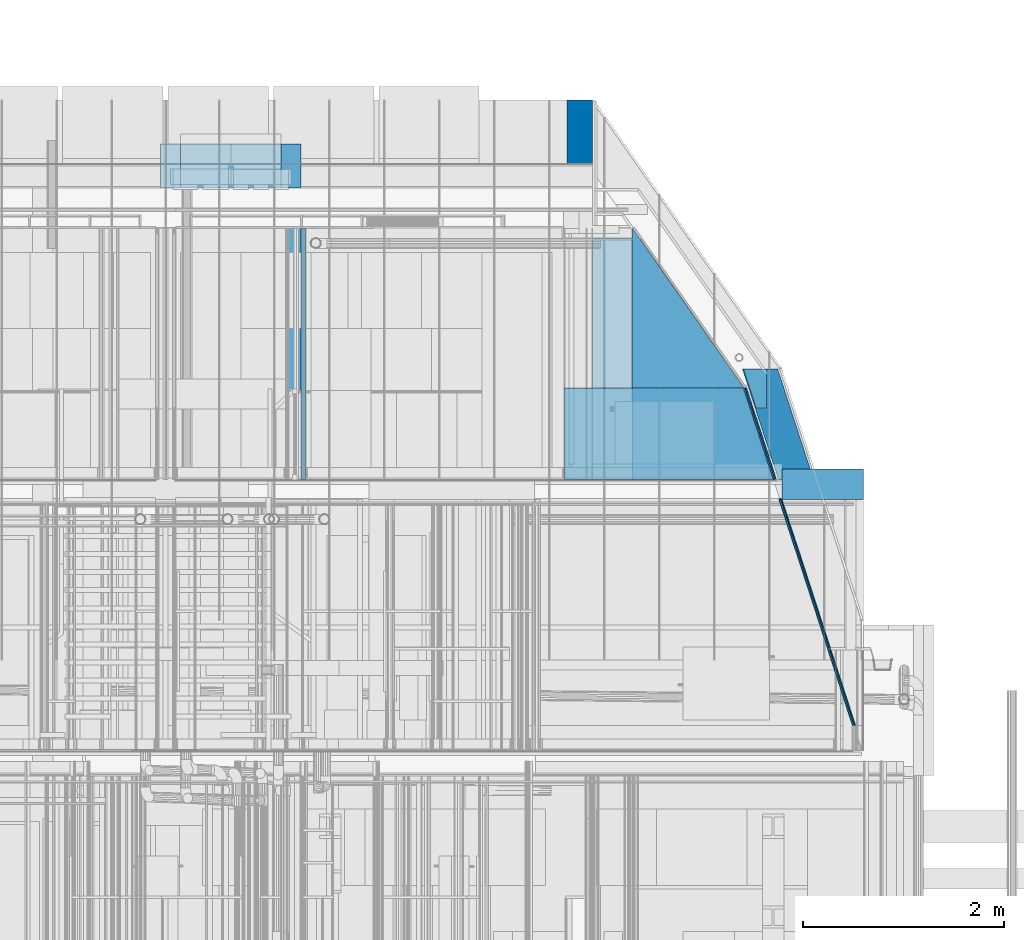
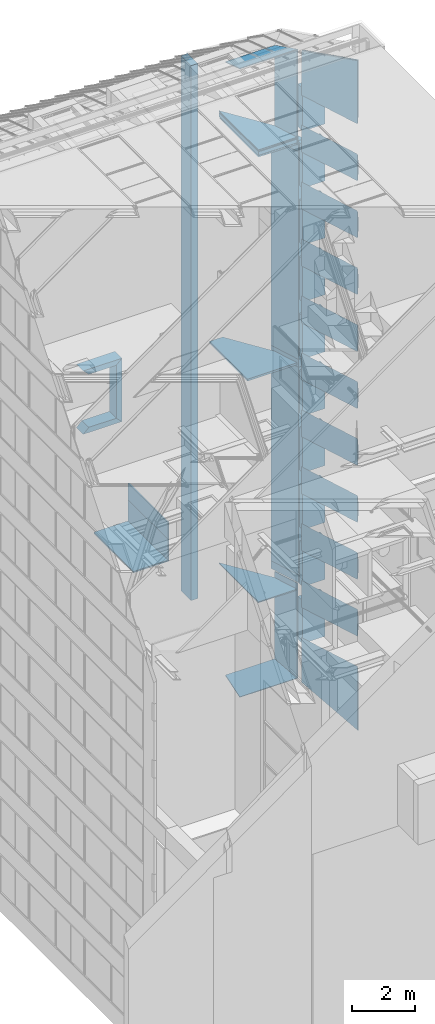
# One storey, part 27 of 583: 59 walls.
"""IFC2X3 building model written with IfcOpenShell, lengths in metres."""

import ifcopenshell
import ifcopenshell.guid

model = None  # the IFC model being written
_history = None  # IfcOwnerHistory: only IFC2X3 demands one
_inside = {}  # id of a spatial element -> (the spatial element, [elements in it])
_under = {}  # id of a project, library or spatial element -> (it, [spatial elements below it])
_declared = {}  # id of a project -> (the project, [libraries it declares])
_typed = {}  # id of a type object -> (the type object, [elements of that type])
_made_of = {}  # id of a material, layer set ... -> (it, [elements and type objects made of it])


def new_model(schema):
    """Start an empty IFC model of exactly this schema.

    Asked for "IFC4X3", IfcOpenShell would pick the latest addendum, in which some entities
    have other attributes; the version numbers below select the first issue.
    IFC2X3 requires an IfcOwnerHistory on every rooted entity: one is made here for all.
    """
    global model, _history
    if schema == "IFC4X3":
        model = ifcopenshell.file(schema_version=(4, 3, 0, 0))
    else:
        model = ifcopenshell.file(schema=schema)
    _inside.clear()
    _under.clear()
    _declared.clear()
    _typed.clear()
    _made_of.clear()
    _history = None
    if model.schema == "IFC2X3":
        org = make("IfcOrganization", Name="unknown")
        user = make(
            "IfcPersonAndOrganization",
            ThePerson=make("IfcPerson", FamilyName="unknown"),
            TheOrganization=org,
        )
        app = make(
            "IfcApplication",
            ApplicationDeveloper=org,
            Version="unknown",
            ApplicationFullName="unknown",
            ApplicationIdentifier="unknown",
        )
        _history = make(
            "IfcOwnerHistory",
            OwningUser=user,
            OwningApplication=app,
            ChangeAction="ADDED",
            CreationDate=0,
        )
    return model


def make(cls, **values):
    """One entity of the class cls with the attributes given. An attribute that is None is left unset."""
    return model.create_entity(
        cls, **{name: value for name, value in values.items() if value is not None}
    )


def entity(cls, *values):
    """Any entity or typed value of the class cls, its attributes in the order of the schema. None: left unset."""
    e = model.create_entity(cls)
    for i, value in enumerate(values):
        if value is not None:
            e[i] = value
    return e


def rooted(cls, **values):
    """An entity with a GlobalId (a new one), such as an element, a storey or a relation."""
    return make(cls, GlobalId=ifcopenshell.guid.new(), OwnerHistory=_history, **values)


def si_unit(unit_type, name, prefix=None):
    """IfcSIUnit, for example si_unit("LENGTHUNIT", "METRE", prefix="MILLI")."""
    return make("IfcSIUnit", UnitType=unit_type, Prefix=prefix, Name=name)


def converted_unit(unit_type, name, factor, base, dimensions=None, offset=None):
    """IfcConversionBasedUnit, such as the inch: factor (a typed value) times the base unit."""
    return make(
        "IfcConversionBasedUnit"
        if offset is None
        else "IfcConversionBasedUnitWithOffset",
        ConversionOffset=offset,
        Dimensions=None
        if dimensions is None
        else entity("IfcDimensionalExponents", *dimensions),
        UnitType=unit_type,
        Name=name,
        ConversionFactor=make(
            "IfcMeasureWithUnit", ValueComponent=factor, UnitComponent=base
        ),
    )


def derived_unit(unit_type, elements):
    """IfcDerivedUnit: a product of units, each with its exponent."""
    return make(
        "IfcDerivedUnit",
        Elements=[
            make("IfcDerivedUnitElement", Unit=unit, Exponent=power)
            for unit, power in elements
        ],
        UnitType=unit_type,
    )


def money_unit(currency):
    """IfcMonetaryUnit."""
    return make("IfcMonetaryUnit", Currency=currency)


def assignment(units):
    """IfcUnitAssignment: the units of a project."""
    return None if units is None else make("IfcUnitAssignment", Units=units)


def point(xyz):
    """IfcCartesianPoint."""
    return None if xyz is None else make("IfcCartesianPoint", Coordinates=xyz)


def direction(xyz):
    """IfcDirection."""
    return None if xyz is None else make("IfcDirection", DirectionRatios=xyz)


def frame(location, z_axis=None, x_axis=None):
    """IfcAxis2Placement3D, a coordinate frame: its origin and axes. An axis left out is left unset."""
    return make(
        "IfcAxis2Placement3D",
        Location=point(location),
        Axis=direction(z_axis),
        RefDirection=direction(x_axis),
    )


def frame_2d(location, x_axis=None):
    """IfcAxis2Placement2D, a coordinate frame in the plane: its origin and x axis."""
    return make(
        "IfcAxis2Placement2D", Location=point(location), RefDirection=direction(x_axis)
    )


def origin_with_axes():
    """The frame at (0, 0, 0) with the z axis (0, 0, 1) and the x axis (1, 0, 0) written out."""
    return frame((0.0, 0.0, 0.0), z_axis=(0.0, 0.0, 1.0), x_axis=(1.0, 0.0, 0.0))


def place(relative_to, where):
    """IfcLocalPlacement: puts the frame where relative to a parent placement (None: the world)."""
    return make(
        "IfcLocalPlacement", PlacementRelTo=relative_to, RelativePlacement=where
    )


def context(
    kind, dimensions, precision=None, world=None, true_north=None, identifier=None
):
    """IfcGeometricRepresentationContext, for example the 3D "Model" context."""
    return make(
        "IfcGeometricRepresentationContext",
        ContextIdentifier=identifier,
        ContextType=kind,
        CoordinateSpaceDimension=dimensions,
        Precision=precision,
        WorldCoordinateSystem=world,
        TrueNorth=true_north,
    )


def subcontext(parent, identifier, kind, view, scale=None):
    """IfcGeometricRepresentationSubContext, for example "Body" below "Model"."""
    return make(
        "IfcGeometricRepresentationSubContext",
        ContextIdentifier=identifier,
        ContextType=kind,
        ParentContext=parent,
        TargetScale=scale,
        TargetView=view,
    )


def project(units=None, contexts=None):
    """IfcProject with its units and contexts."""
    return rooted(
        "IfcProject",
        Name="project",
        RepresentationContexts=contexts,
        UnitsInContext=assignment(units),
    )


def spatial(cls, under=None, at=None, **own):
    """A site, building, storey or space (cls), placed at a placement, below another one or the project."""
    s = rooted(cls, ObjectPlacement=at, **own)
    if under is not None:
        _under.setdefault(under.id(), (under, []))[1].append(s)
    return s


def polyline(points):
    """IfcPolyline through the points."""
    return make("IfcPolyline", Points=[point(p) for p in points])


def profile(cls, at=None, kind="AREA", **sizes):
    """A parametric profile (cls). Its sizes go by their IFC names, for example OverallWidth=200.0."""
    return make(cls, ProfileType=kind, Position=at, **sizes)


def rectangle(**sizes):
    """IfcRectangleProfileDef."""
    return profile("IfcRectangleProfileDef", **sizes)


def outline(outer, holes=None, kind="AREA"):
    """IfcArbitraryClosedProfileDef: a profile drawn as a closed curve; with holes, ...WithVoids."""
    if holes is None:
        return make("IfcArbitraryClosedProfileDef", ProfileType=kind, OuterCurve=outer)
    return make(
        "IfcArbitraryProfileDefWithVoids",
        ProfileType=kind,
        OuterCurve=outer,
        InnerCurves=holes,
    )


def extrude(swept, where, along, depth):
    """IfcExtrudedAreaSolid: the profile swept, set in the frame where, extruded along a direction by depth."""
    return make(
        "IfcExtrudedAreaSolid",
        SweptArea=swept,
        Position=where,
        ExtrudedDirection=direction(along),
        Depth=depth,
    )


def clip(a, b, op="DIFFERENCE"):
    """IfcBooleanClippingResult: the solid a cut by the half space b."""
    return make(
        "IfcBooleanClippingResult", Operator=op, FirstOperand=a, SecondOperand=b
    )


def halfspace(plane, agree):
    """IfcHalfSpaceSolid: all space on one side of the plane z = 0 of the frame plane."""
    return make(
        "IfcHalfSpaceSolid",
        BaseSurface=make("IfcPlane", Position=plane),
        AgreementFlag=agree,
    )


def shape(context_of_items, identifier, shape_type, items):
    """IfcShapeRepresentation: the items that make up one representation, for example the "Body"."""
    return make(
        "IfcShapeRepresentation",
        ContextOfItems=context_of_items,
        RepresentationIdentifier=identifier,
        RepresentationType=shape_type,
        Items=items,
    )


def material(Name=None, Category=None):
    """IfcMaterial."""
    return make("IfcMaterial", Name=Name, Category=Category)


def layer(
    of_material, thickness, ventilated=None, Name=None, Category=None, Priority=None
):
    """IfcMaterialLayer: one layer of a wall or slab, of a material (None: an air gap)."""
    return make(
        "IfcMaterialLayer",
        Material=of_material,
        LayerThickness=thickness,
        IsVentilated=ventilated,
        Name=Name,
        Category=Category,
        Priority=Priority,
    )


def layer_set(layers, Name=None):
    """IfcMaterialLayerSet."""
    return make("IfcMaterialLayerSet", MaterialLayers=layers, LayerSetName=Name)


def layer_usage(for_layer_set, set_direction, sense, offset, extent=None):
    """IfcMaterialLayerSetUsage: how a layer set lies in its element."""
    return make(
        "IfcMaterialLayerSetUsage",
        ForLayerSet=for_layer_set,
        LayerSetDirection=set_direction,
        DirectionSense=sense,
        OffsetFromReferenceLine=offset,
        ReferenceExtent=extent,
    )


def made_of(thing, what):
    """Note that an element or type object is made of a material, layer set ...; save() writes the relation."""
    if what is not None:
        _made_of.setdefault(what.id(), (what, []))[1].append(thing)
    return thing


def type_object(cls, material=None, **own):
    """A type object (cls), such as IfcWallType, which elements share."""
    return made_of(rooted(cls, **own), material)


def element(
    cls,
    number,
    at=None,
    inside=None,
    cuts=None,
    type_object=None,
    material=None,
    context=None,
    identifier="Body",
    shape_type=None,
    held_by="IfcProductDefinitionShape",
    body=None,
    shapes=None,
    **own,
):
    """One element of the class cls, such as IfcWall. Its Tag is "e" and its number.

    at: its placement. inside: the storey or other place that contains it. cuts: it is an
    opening in that element (IfcRelVoidsElement). A single representation is given by context,
    identifier, shape_type and body (its items); several are given by shapes. held_by: the class
    of the entity that holds the representations. save() writes the other relations.
    """
    e = rooted(cls, Tag="e%d" % number, ObjectPlacement=at, **own)
    if body is not None:
        shapes = [shape(context, identifier, shape_type, body)]
    if shapes is not None:
        e.Representation = make(held_by, Representations=shapes)
    if inside is not None:
        _inside.setdefault(inside.id(), (inside, []))[1].append(e)
    if cuts is not None:
        rooted(
            "IfcRelVoidsElement", RelatingBuildingElement=cuts, RelatedOpeningElement=e
        )
    if type_object is not None:
        _typed.setdefault(type_object.id(), (type_object, []))[1].append(e)
    return made_of(e, material)


def aggregate(whole, parts):
    """IfcRelAggregates: a whole, such as a stair, and the parts it consists of."""
    return rooted("IfcRelAggregates", RelatingObject=whole, RelatedObjects=parts)


def save(model, path):
    """Write the relations noted so far, then the file.

    IfcRelAggregates (storeys below a building ...), IfcRelContainedInSpatialStructure (elements
    in a storey), IfcRelDefinesByType, IfcRelAssociatesMaterial and IfcRelDeclares: one each for
    every whole, place, type object, material and project.
    """
    for whole, parts in _under.values():
        aggregate(whole, parts)
    for where, things in _inside.values():
        rooted(
            "IfcRelContainedInSpatialStructure",
            RelatedElements=things,
            RelatingStructure=where,
        )
    for kind, things in _typed.values():
        rooted("IfcRelDefinesByType", RelatedObjects=things, RelatingType=kind)
    for what, things in _made_of.values():
        rooted("IfcRelAssociatesMaterial", RelatedObjects=things, RelatingMaterial=what)
    for by, libraries in _declared.values():
        rooted("IfcRelDeclares", RelatingContext=by, RelatedDefinitions=libraries)
    model.write(path)


model = new_model("IFC2X3")

# Units and contexts
model_context = context("Model", 3, precision=1e-05, world=origin_with_axes(), true_north=direction((0.0, 1.0)))
body_context = subcontext(model_context, "Body", "Model", "MODEL_VIEW", scale=1.0)
ifc_project = project(units=[si_unit("LENGTHUNIT", "METRE"), si_unit("AREAUNIT", "SQUARE_METRE"), si_unit("VOLUMEUNIT", "CUBIC_METRE"), si_unit("ABSORBEDDOSEUNIT", "GRAY"), si_unit("AMOUNTOFSUBSTANCEUNIT", "MOLE"), si_unit("DOSEEQUIVALENTUNIT", "SIEVERT"), si_unit("ELECTRICCAPACITANCEUNIT", "FARAD"), si_unit("ELECTRICCHARGEUNIT", "COULOMB"), si_unit("ELECTRICCONDUCTANCEUNIT", "SIEMENS"), si_unit("ELECTRICCURRENTUNIT", "AMPERE"), si_unit("ELECTRICRESISTANCEUNIT", "OHM"), si_unit("ELECTRICVOLTAGEUNIT", "VOLT"), si_unit("ENERGYUNIT", "JOULE"), si_unit("FORCEUNIT", "NEWTON"), si_unit("FREQUENCYUNIT", "HERTZ"), si_unit("ILLUMINANCEUNIT", "LUX"), si_unit("INDUCTANCEUNIT", "HENRY"), si_unit("LUMINOUSFLUXUNIT", "LUMEN"), si_unit("LUMINOUSINTENSITYUNIT", "CANDELA"), si_unit("MAGNETICFLUXDENSITYUNIT", "TESLA"), si_unit("MAGNETICFLUXUNIT", "WEBER"), si_unit("MASSUNIT", "GRAM"), converted_unit("PLANEANGLEUNIT", "degree", entity("IfcReal", 0.0174532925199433), si_unit("PLANEANGLEUNIT", "RADIAN"), dimensions=[0, 0, 0, 0, 0, 0, 0]), si_unit("POWERUNIT", "WATT"), si_unit("PRESSUREUNIT", "PASCAL"), si_unit("RADIOACTIVITYUNIT", "BECQUEREL"), si_unit("SOLIDANGLEUNIT", "STERADIAN"), si_unit("THERMODYNAMICTEMPERATUREUNIT", "KELVIN"), si_unit("TIMEUNIT", "SECOND"), derived_unit("ACCELERATIONUNIT", [(si_unit("LENGTHUNIT", "METRE"), 1), (si_unit("TIMEUNIT", "SECOND"), -2)]), derived_unit("ANGULARVELOCITYUNIT", [(converted_unit("PLANEANGLEUNIT", "degree", entity("IfcReal", 0.0174532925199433), si_unit("PLANEANGLEUNIT", "RADIAN"), dimensions=[0, 0, 0, 0, 0, 0, 0]), 1), (si_unit("TIMEUNIT", "SECOND"), -1)]), derived_unit("CURVATUREUNIT", [(converted_unit("PLANEANGLEUNIT", "degree", entity("IfcReal", 0.0174532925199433), si_unit("PLANEANGLEUNIT", "RADIAN"), dimensions=[0, 0, 0, 0, 0, 0, 0]), 1), (si_unit("LENGTHUNIT", "METRE"), -1)]), derived_unit("DYNAMICVISCOSITYUNIT", [(si_unit("PRESSUREUNIT", "PASCAL"), 1), (si_unit("TIMEUNIT", "SECOND"), 1)]), derived_unit("HEATFLUXDENSITYUNIT", [(si_unit("POWERUNIT", "WATT"), 1), (si_unit("LENGTHUNIT", "METRE"), -2)]), derived_unit("HEATINGVALUEUNIT", [(si_unit("ENERGYUNIT", "JOULE"), 1), (si_unit("MASSUNIT", "GRAM"), -1)]), derived_unit("INTEGERCOUNTRATEUNIT", [(si_unit("TIMEUNIT", "SECOND"), -1)]), derived_unit("IONCONCENTRATIONUNIT", [(si_unit("MASSUNIT", "GRAM"), 1), (si_unit("VOLUMEUNIT", "CUBIC_METRE"), -1)]), derived_unit("ISOTHERMALMOISTURECAPACITYUNIT", [(si_unit("VOLUMEUNIT", "CUBIC_METRE"), 1), (si_unit("MASSUNIT", "GRAM"), -1)]), derived_unit("KINEMATICVISCOSITYUNIT", [(si_unit("AREAUNIT", "SQUARE_METRE"), 1), (si_unit("TIMEUNIT", "SECOND"), -1)]), derived_unit("LINEARFORCEUNIT", [(si_unit("FORCEUNIT", "NEWTON"), 1), (si_unit("LENGTHUNIT", "METRE"), -1)]), derived_unit("LINEARMOMENTUNIT", [(si_unit("FORCEUNIT", "NEWTON"), 1), (si_unit("LENGTHUNIT", "METRE"), -1)]), derived_unit("LINEARSTIFFNESSUNIT", [(si_unit("FORCEUNIT", "NEWTON"), 1), (si_unit("LENGTHUNIT", "METRE"), -1)]), derived_unit("LINEARVELOCITYUNIT", [(si_unit("LENGTHUNIT", "METRE"), 1), (si_unit("TIMEUNIT", "SECOND"), -1)]), derived_unit("LUMINOUSINTENSITYDISTRIBUTIONUNIT", [(si_unit("LUMINOUSINTENSITYUNIT", "CANDELA"), 1), (si_unit("LUMINOUSFLUXUNIT", "LUMEN"), -1)]), derived_unit("MASSDENSITYUNIT", [(si_unit("MASSUNIT", "GRAM"), 1), (si_unit("VOLUMEUNIT", "CUBIC_METRE"), -1)]), derived_unit("MASSFLOWRATEUNIT", [(si_unit("MASSUNIT", "GRAM"), 1), (si_unit("TIMEUNIT", "SECOND"), -1)]), derived_unit("MASSPERLENGTHUNIT", [(si_unit("MASSUNIT", "GRAM"), 1), (si_unit("LENGTHUNIT", "METRE"), -1)]), derived_unit("MODULUSOFELASTICITYUNIT", [(si_unit("FORCEUNIT", "NEWTON"), 1), (si_unit("AREAUNIT", "SQUARE_METRE"), -1)]), derived_unit("MODULUSOFLINEARSUBGRADEREACTIONUNIT", [(si_unit("FORCEUNIT", "NEWTON"), 1), (si_unit("LENGTHUNIT", "METRE"), -2)]), derived_unit("MODULUSOFROTATIONALSUBGRADEREACTIONUNIT", [(si_unit("FORCEUNIT", "NEWTON"), 1), (si_unit("LENGTHUNIT", "METRE"), 1)]), derived_unit("MODULUSOFSUBGRADEREACTIONUNIT", [(si_unit("FORCEUNIT", "NEWTON"), 1), (si_unit("VOLUMEUNIT", "CUBIC_METRE"), -1)]), derived_unit("MOISTUREDIFFUSIVITYUNIT", [(si_unit("VOLUMEUNIT", "CUBIC_METRE"), 1), (si_unit("TIMEUNIT", "SECOND"), -1)]), derived_unit("MOLECULARWEIGHTUNIT", [(si_unit("MASSUNIT", "GRAM"), 1), (si_unit("AMOUNTOFSUBSTANCEUNIT", "MOLE"), -1)]), derived_unit("PLANARFORCEUNIT", [(si_unit("FORCEUNIT", "NEWTON"), 1), (si_unit("LENGTHUNIT", "METRE"), -2)]), derived_unit("ROTATIONALFREQUENCYUNIT", [(si_unit("TIMEUNIT", "SECOND"), -1)]), derived_unit("ROTATIONALMASSUNIT", [(si_unit("MASSUNIT", "GRAM"), 1), (si_unit("LENGTHUNIT", "METRE"), 2)]), derived_unit("ROTATIONALSTIFFNESSUNIT", [(si_unit("FORCEUNIT", "NEWTON"), 1), (si_unit("LENGTHUNIT", "METRE"), 1), (converted_unit("PLANEANGLEUNIT", "degree", entity("IfcReal", 0.0174532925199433), si_unit("PLANEANGLEUNIT", "RADIAN"), dimensions=[0, 0, 0, 0, 0, 0, 0]), -1)]), derived_unit("SECTIONAREAINTEGRALUNIT", [(si_unit("LENGTHUNIT", "METRE"), 5)]), derived_unit("SECTIONMODULUSUNIT", [(si_unit("LENGTHUNIT", "METRE"), 3)]), derived_unit("SHEARMODULUSUNIT", [(si_unit("FORCEUNIT", "NEWTON"), 1), (si_unit("AREAUNIT", "SQUARE_METRE"), -1)]), derived_unit("SOUNDPOWERUNIT", [(si_unit("ENERGYUNIT", "JOULE"), 1), (si_unit("TIMEUNIT", "SECOND"), -1)]), derived_unit("SPECIFICHEATCAPACITYUNIT", [(si_unit("FORCEUNIT", "NEWTON"), 1), (si_unit("MASSUNIT", "GRAM"), -1), (si_unit("THERMODYNAMICTEMPERATUREUNIT", "KELVIN"), -1)]), derived_unit("TEMPERATUREGRADIENTUNIT", [(si_unit("THERMODYNAMICTEMPERATUREUNIT", "KELVIN"), 1), (si_unit("LENGTHUNIT", "METRE"), -1)]), derived_unit("THERMALADMITTANCEUNIT", [(si_unit("POWERUNIT", "WATT"), 1), (si_unit("AREAUNIT", "SQUARE_METRE"), -1), (si_unit("THERMODYNAMICTEMPERATUREUNIT", "KELVIN"), -1)]), derived_unit("THERMALCONDUCTANCEUNIT", [(si_unit("POWERUNIT", "WATT"), 1), (si_unit("LENGTHUNIT", "METRE"), -1), (si_unit("THERMODYNAMICTEMPERATUREUNIT", "KELVIN"), -1)]), derived_unit("THERMALEXPANSIONCOEFFICIENTUNIT", [(si_unit("THERMODYNAMICTEMPERATUREUNIT", "KELVIN"), -1)]), derived_unit("THERMALRESISTANCEUNIT", [(si_unit("AREAUNIT", "SQUARE_METRE"), 1), (si_unit("POWERUNIT", "WATT"), -1)]), derived_unit("THERMALTRANSMITTANCEUNIT", [(si_unit("POWERUNIT", "WATT"), 1), (si_unit("AREAUNIT", "SQUARE_METRE"), -1), (si_unit("THERMODYNAMICTEMPERATUREUNIT", "KELVIN"), -1)]), derived_unit("TORQUEUNIT", [(si_unit("FORCEUNIT", "NEWTON"), 1), (si_unit("LENGTHUNIT", "METRE"), 1)]), derived_unit("VAPORPERMEABILITYUNIT", [(si_unit("MASSUNIT", "GRAM"), 1), (si_unit("TIMEUNIT", "SECOND"), -1)]), derived_unit("VOLUMETRICFLOWRATEUNIT", [(si_unit("VOLUMEUNIT", "CUBIC_METRE"), 1), (si_unit("TIMEUNIT", "SECOND"), -1)]), derived_unit("WARPINGCONSTANTUNIT", [(si_unit("LENGTHUNIT", "METRE"), 6)]), derived_unit("WARPINGMOMENTUNIT", [(si_unit("FORCEUNIT", "NEWTON"), 1), (si_unit("LENGTHUNIT", "METRE"), 2)]), money_unit("GBP")], contexts=[model_context])

# Site, building, storey
site_placement = place(None, origin_with_axes())
site = spatial("IfcSite", under=ifc_project, at=site_placement, Name="Site", CompositionType="ELEMENT")
building_placement = place(site_placement, origin_with_axes())
building = spatial("IfcBuilding", under=site, at=building_placement, Name="Building01", CompositionType="ELEMENT")
storey_placement = place(building_placement, frame((0.0, 0.0, 20.78), z_axis=(0.0, 0.0, 1.0), x_axis=(1.0, 0.0, 0.0)))
storey = spatial("IfcBuildingStorey", under=building, at=storey_placement, Name="RL", CompositionType="ELEMENT", Elevation=20.78)

# Walls
ifc_material_1 = material(Name="A_BSUK_WallsExternal_Block")
wall_type_1 = type_object("IfcWallType", Name="A-Walls-ExternalBlock", PredefinedType="NOTDEFINED")
wall_1_placement = place(storey_placement, frame((8.599939, 20.58, -9.4182), z_axis=(0.0, 1.0, 0.0), x_axis=(0.0, 0.0, 1.0)))
element("IfcWall", 1, at=wall_1_placement, inside=storey, type_object=wall_type_1, material=ifc_material_1, Name="A-Walls-ExternalBlock", ObjectType="A-Walls-ExternalBlock", context=body_context, shape_type="SweptSolid", body=[
    extrude(outline(polyline([(2.2382, 0.2), (-0.2, 0.2), (0.0, 0.0), (2.0382, 0.0), (2.2382, 0.2)])), origin_with_axes(), (0.0, 0.0, 1.0), 0.438),
])
for number, where, z_axis, x_axis, name in (
    (2, (8.599939, 20.58, -7.38), (0.0, 1.0, 0.0), (-1.0, 0.0, 0.0), "A-Walls-ExternalBlock"),
    (3, (7.599939, 20.58, -9.4182), (0.0, 1.0, 0.0), (1.0, 0.0, 0.0), "A-Walls-ExternalBlock"),
):
    element("IfcWall", number, at=place(storey_placement, frame(where, z_axis=z_axis, x_axis=x_axis)), inside=storey, type_object=wall_type_1, material=ifc_material_1, Name=name, ObjectType="A-Walls-ExternalBlock", context=body_context, shape_type="SweptSolid", body=[
        extrude(outline(polyline([(1.2, 0.2), (-0.2, 0.2), (0.0, 0.0), (1.0, 0.0), (1.2, 0.2)])), origin_with_axes(), (0.0, 0.0, 1.0), 0.438),
    ])
ifc_material_2 = material(Name="A_BSUK_Roofs")
wall_2_placement = place(storey_placement, frame((11.449939, 20.818, -17.58), z_axis=(0.0, 1.0, 0.0), x_axis=(0.0, 0.0, 1.0)))
element("IfcWall", 4, at=wall_2_placement, inside=storey, type_object=wall_type_1, material=ifc_material_2, Name="A-Walls-ExternalBlock", ObjectType="A-Walls-ExternalBlock", context=body_context, shape_type="SweptSolid", body=[
    extrude(rectangle(XDim=20.580061, YDim=0.25, at=frame_2d((10.29003, 0.125), x_axis=(-1.0, 0.0))), origin_with_axes(), (0.0, 0.0, 1.0), 0.637),
])
ifc_material_3 = material(Name="A_BSUK_WallsInternal")
wall_type_2 = type_object("IfcWallType", Name="A-Walls-Internal", PredefinedType="NOTDEFINED")
wall_3_placement = place(storey_placement, frame((14.3212, 15.23, -20.2012), z_axis=(-0.30901699, 0.95105652, 0.0), x_axis=(0.0, 0.0, 1.0)))
element("IfcWall", 5, at=wall_3_placement, inside=storey, type_object=wall_type_2, material=ifc_material_3, Name="7C", ObjectType="A-Walls-Internal", context=body_context, shape_type="Clipping", body=[
    clip(extrude(outline(polyline([(2.241224, 0.0), (0.0, 0.0), (0.014266, -0.015), (2.241224, -0.015), (2.241224, 0.0)])), origin_with_axes(), (0.0, 0.0, 1.0), 2.373987), halfspace(frame((0.0, 0.0, 0.0), z_axis=(0.70710678, 0.67249851, -0.21850801), x_axis=(-0.68915176, 0.72461704, 0.0)), True)),
])
for number, where, z_axis, x_axis, name in (
    (6, (14.3212, 15.23, -16.310024), (-0.30901699, 0.95105652, 0.0), (0.0, 0.0, 1.0), "7C"),
    (7, (14.3212, 15.23, -14.120024), (-0.30901699, 0.95105652, 0.0), (0.0, 0.0, 1.0), "7C"),
    (8, (14.3212, 15.23, -11.930024), (-0.30901699, 0.95105652, 0.0), (0.0, 0.0, 1.0), "7C"),
    (9, (14.3212, 15.23, -9.740024), (-0.30901699, 0.95105652, 0.0), (0.0, 0.0, 1.0), "7C"),
    (10, (14.3212, 15.23, -7.550024), (-0.30901699, 0.95105652, 0.0), (0.0, 0.0, 1.0), "7C"),
    (11, (14.3212, 15.23, -5.360024), (-0.30901699, 0.95105652, 0.0), (0.0, 0.0, 1.0), "7C"),
    (12, (14.3212, 15.23, -3.170024), (-0.30901699, 0.95105652, 0.0), (0.0, 0.0, 1.0), "7C"),
    (13, (14.3212, 15.23, -0.980024), (-0.30901699, 0.95105652, 0.0), (0.0, 0.0, 1.0), "7C"),
    (14, (14.3212, 15.23, 1.209976), (-0.30901699, 0.95105652, 0.0), (0.0, 0.0, 1.0), "7C"),
):
    element("IfcWall", number, at=place(storey_placement, frame(where, z_axis=z_axis, x_axis=x_axis)), inside=storey, type_object=wall_type_2, material=ifc_material_3, Name=name, ObjectType="A-Walls-Internal", context=body_context, shape_type="SweptSolid", body=[
        extrude(rectangle(XDim=0.540049, YDim=0.015, at=frame_2d((0.270024, -0.0075), x_axis=(-1.0, 0.0))), origin_with_axes(), (0.0, 0.0, 1.0), 2.373987),
    ])
wall_4_placement = place(storey_placement, frame((14.3212, 15.23, 5.6212), z_axis=(-0.30901699, 0.95105652, 0.0), x_axis=(0.0, 0.0, -1.0)))
element("IfcWall", 15, at=wall_4_placement, inside=storey, type_object=wall_type_2, material=ifc_material_3, Name="7C", ObjectType="A-Walls-Internal", context=body_context, shape_type="Clipping", body=[
    clip(extrude(outline(polyline([(2.221224, 0.015), (0.014266, 0.015), (0.0, 0.0), (2.221224, 0.0), (2.221224, 0.015)])), origin_with_axes(), (0.0, 0.0, 1.0), 2.373987), halfspace(frame((0.0, 0.0, 0.0), z_axis=(0.70710678, -0.67249851, -0.21850801), x_axis=(0.68915176, 0.72461704, 0.0)), True)),
])
wall_5_placement = place(storey_placement, frame((14.305572, 15.229557, 5.605572), z_axis=(-0.30901699, 0.95105652, 0.0), x_axis=(0.0, 0.0, -1.0)))
element("IfcWall", 16, at=wall_5_placement, inside=storey, type_object=wall_type_2, material=ifc_material_3, Name="7C", ObjectType="A-Walls-Internal", context=body_context, shape_type="Clipping", body=[
    clip(extrude(outline(polyline([(2.455596, 0.015), (0.014266, 0.015), (0.0, 0.0), (2.205596, 0.0), (2.455596, 0.015)])), origin_with_axes(), (0.0, 0.0, 1.0), 2.373987), halfspace(frame((0.0, 0.0, 0.0), z_axis=(0.70710678, -0.67249851, -0.21850801), x_axis=(0.68915176, 0.72461704, 0.0)), True)),
])
wall_6_placement = place(storey_placement, frame((14.305572, 15.229557, -20.185572), z_axis=(-0.30901699, 0.95105652, 0.0), x_axis=(0.0, 0.0, 1.0)))
element("IfcWall", 17, at=wall_6_placement, inside=storey, type_object=wall_type_2, material=ifc_material_3, Name="7C", ObjectType="A-Walls-Internal", context=body_context, shape_type="Clipping", body=[
    clip(extrude(outline(polyline([(2.225596, 0.0), (0.0, 0.0), (0.014266, -0.015), (2.475596, -0.015), (2.225596, 0.0)])), origin_with_axes(), (0.0, 0.0, 1.0), 2.373987), halfspace(frame((0.0, 0.0, 0.0), z_axis=(0.70710678, 0.67249851, -0.21850801), x_axis=(-0.68915176, 0.72461704, 0.0)), True)),
])
for number, where, z_axis, x_axis, name in (
    (18, (14.305572, 15.229557, -16.310024), (-0.30901699, 0.95105652, 0.0), (0.0, 0.0, 1.0), "7C"),
    (19, (14.305572, 15.229557, -14.120024), (-0.30901699, 0.95105652, 0.0), (0.0, 0.0, 1.0), "7C"),
    (20, (14.305572, 15.229557, -11.930024), (-0.30901699, 0.95105652, 0.0), (0.0, 0.0, 1.0), "7C"),
    (21, (14.305572, 15.229557, -9.740024), (-0.30901699, 0.95105652, 0.0), (0.0, 0.0, 1.0), "7C"),
    (22, (14.305572, 15.229557, -7.550024), (-0.30901699, 0.95105652, 0.0), (0.0, 0.0, 1.0), "7C"),
    (23, (14.305572, 15.229557, -5.360024), (-0.30901699, 0.95105652, 0.0), (0.0, 0.0, 1.0), "7C"),
    (24, (14.305572, 15.229557, -3.170024), (-0.30901699, 0.95105652, 0.0), (0.0, 0.0, 1.0), "7C"),
    (25, (14.305572, 15.229557, -0.980024), (-0.30901699, 0.95105652, 0.0), (0.0, 0.0, 1.0), "7C"),
    (26, (14.305572, 15.229557, 1.209976), (-0.30901699, 0.95105652, 0.0), (0.0, 0.0, 1.0), "7C"),
):
    element("IfcWall", number, at=place(storey_placement, frame(where, z_axis=z_axis, x_axis=x_axis)), inside=storey, type_object=wall_type_2, material=ifc_material_3, Name=name, ObjectType="A-Walls-Internal", context=body_context, shape_type="SweptSolid", body=[
        extrude(outline(polyline([(0.540049, 0.0), (0.0, 0.0), (-0.25, -0.015), (0.790049, -0.015), (0.540049, 0.0)])), origin_with_axes(), (0.0, 0.0, 1.0), 2.373987),
    ])
wall_7_placement = place(storey_placement, frame((7.55, 17.68, -13.19), z_axis=(0.0, 1.0, 0.0), x_axis=(1.0, 0.0, 0.0)))
element("IfcWall", 27, at=wall_7_placement, inside=storey, type_object=wall_type_2, material=ifc_material_3, Name="A-Walls-Internal", ObjectType="A-Walls-Internal", context=body_context, shape_type="SweptSolid", body=[
    extrude(outline(polyline([(1.297353, 0.05), (0.0, 0.05), (0.0, 0.0), (1.247353, 0.0), (1.297353, 0.05)])), origin_with_axes(), (0.0, 0.0, 1.0), 2.5),
])
wall_8_placement = place(storey_placement, frame((8.797353, 17.68, -13.19), z_axis=(0.0, 1.0, 0.0), x_axis=(0.0, 0.0, 1.0)))
element("IfcWall", 28, at=wall_8_placement, inside=storey, type_object=wall_type_2, material=ifc_material_3, Name="A-Walls-Internal", ObjectType="A-Walls-Internal", context=body_context, shape_type="SweptSolid", body=[
    extrude(outline(polyline([(-0.05, 0.05), (0.0, 0.0), (0.809461, 0.0), (0.809461, 0.05), (-0.05, 0.05)])), origin_with_axes(), (0.0, 0.0, 1.0), 2.5),
])
wall_9_placement = place(storey_placement, frame((8.797353, 17.68, -12.380539), z_axis=(0.0, 1.0, 0.0), x_axis=(0.0, 0.0, 1.0)))
element("IfcWall", 29, at=wall_9_placement, inside=storey, type_object=wall_type_2, material=ifc_material_3, Name="A-Walls-Internal", ObjectType="A-Walls-Internal", context=body_context, shape_type="SweptSolid", body=[
    extrude(rectangle(XDim=0.637539, YDim=0.05, at=frame_2d((0.31877, 0.025), x_axis=(-1.0, 0.0))), origin_with_axes(), (0.0, 0.0, 1.0), 2.5),
])
wall_10_placement = place(storey_placement, frame((13.516271, 17.68, -15.719976), z_axis=(-0.30901647, 0.95105669, 0.0), x_axis=(0.0, 0.0, -1.0)))
element("IfcWall", 30, at=wall_10_placement, inside=storey, type_object=wall_type_2, material=ifc_material_3, Name="7C", ObjectType="A-Walls-Internal", context=body_context, shape_type="Clipping", body=[
    clip(extrude(outline(polyline([(3.660496, 0.0), (0.0, 0.0), (0.0, -0.015), (3.674762, -0.015), (3.660496, 0.0)])), origin_with_axes(), (0.0, 0.0, 1.0), 0.955), halfspace(frame((1.830248, 1.740669, 0.565577), z_axis=(-0.70710678, -0.67249863, -0.21850764), x_axis=(0.68915176, -0.72461704, 0.0)), True)),
])
wall_11_placement = place(storey_placement, frame((13.516271, 17.68, -19.380471), z_axis=(0.0, 0.95105669, 0.30901647), x_axis=(-1.0, 0.0, 0.0)))
element("IfcWall", 31, at=wall_11_placement, inside=storey, type_object=wall_type_2, material=ifc_material_3, Name="7C", ObjectType="A-Walls-Internal", context=body_context, shape_type="Clipping", body=[
    clip(extrude(outline(polyline([(0.0, 0.0), (-0.014266, -0.015), (2.100409, -0.015), (2.100409, 0.0), (0.0, 0.0)])), origin_with_axes(), (0.0, 0.0, 1.0), 0.955), halfspace(frame((0.0, 0.0, 0.0), z_axis=(0.70710678, -0.67249863, -0.21850764), x_axis=(0.68915176, 0.72461704, 0.0)), True)),
])
wall_12_placement = place(storey_placement, frame((13.502009, 17.675353, -15.719976), z_axis=(-0.30901647, 0.95105669, 0.0), x_axis=(0.0, 0.0, -1.0)))
element("IfcWall", 32, at=wall_12_placement, inside=storey, type_object=wall_type_2, material=ifc_material_3, Name="7C", ObjectType="A-Walls-Internal", context=body_context, shape_type="Clipping", body=[
    clip(extrude(outline(polyline([(3.646234, 0.0), (0.0, 0.0), (0.0, -0.015), (3.6605, -0.015), (3.646234, 0.0)])), origin_with_axes(), (0.0, 0.0, 1.0), 0.954992), halfspace(frame((1.823117, 1.733888, 0.563373), z_axis=(-0.70710678, -0.67249863, -0.21850764), x_axis=(0.68915176, -0.72461704, 0.0)), True)),
])
wall_13_placement = place(storey_placement, frame((13.502, 17.675383, -19.3662), z_axis=(0.0, 0.95105669, 0.30901647), x_axis=(-1.0, 0.0, 0.0)))
element("IfcWall", 33, at=wall_13_placement, inside=storey, type_object=wall_type_2, material=ifc_material_3, Name="7C", ObjectType="A-Walls-Internal", context=body_context, shape_type="Clipping", body=[
    clip(extrude(outline(polyline([(0.0, 0.0), (-0.014266, -0.015), (2.086137, -0.015), (2.086137, 0.0), (0.0, 0.0)])), origin_with_axes(), (0.0, 0.0, 1.0), 0.955009), halfspace(frame((0.0, 0.0, 0.0), z_axis=(0.70710678, -0.67249863, -0.21850764), x_axis=(0.68915176, 0.72461704, 0.0)), True)),
])
wall_14_placement = place(storey_placement, frame((13.516271, 17.68, 1.139976), z_axis=(-0.30901647, 0.95105669, 0.0), x_axis=(0.0, 0.0, -1.0)))
element("IfcWall", 34, at=wall_14_placement, inside=storey, type_object=wall_type_2, material=ifc_material_3, Name="7C", ObjectType="A-Walls-Internal", context=body_context, shape_type="Clipping", body=[
    clip(extrude(outline(polyline([(-3.674762, -0.015), (0.0, -0.015), (0.0, 0.0), (-3.660496, 0.0), (-3.674762, -0.015)])), origin_with_axes(), (0.0, 0.0, 1.0), 0.955), halfspace(frame((-1.830248, 1.740669, 0.565577), z_axis=(0.70710678, -0.67249863, -0.21850764), x_axis=(0.68915176, 0.72461704, 0.0)), True)),
])
wall_15_placement = place(storey_placement, frame((13.516271, 17.68, 4.800471), z_axis=(0.0, 0.95105669, -0.30901647), x_axis=(1.0, 0.0, 0.0)))
element("IfcWall", 35, at=wall_15_placement, inside=storey, type_object=wall_type_2, material=ifc_material_3, Name="7C", ObjectType="A-Walls-Internal", context=body_context, shape_type="Clipping", body=[
    clip(extrude(outline(polyline([(0.014266, -0.015), (0.0, 0.0), (-2.100409, 0.0), (-2.100409, -0.015), (0.014266, -0.015)])), origin_with_axes(), (0.0, 0.0, 1.0), 0.955), halfspace(frame((0.0, 0.0, 0.0), z_axis=(-0.70710678, -0.67249863, -0.21850764), x_axis=(0.68915176, -0.72461704, 0.0)), True)),
])
wall_16_placement = place(storey_placement, frame((13.502009, 17.675353, 1.139976), z_axis=(-0.30901647, 0.95105669, 0.0), x_axis=(0.0, 0.0, -1.0)))
element("IfcWall", 36, at=wall_16_placement, inside=storey, type_object=wall_type_2, material=ifc_material_3, Name="7C", ObjectType="A-Walls-Internal", context=body_context, shape_type="Clipping", body=[
    clip(extrude(outline(polyline([(-3.6605, -0.015), (0.0, -0.015), (0.0, 0.0), (-3.646234, 0.0), (-3.6605, -0.015)])), origin_with_axes(), (0.0, 0.0, 1.0), 0.954992), halfspace(frame((-1.823117, 1.733888, 0.563373), z_axis=(0.70710678, -0.67249863, -0.21850764), x_axis=(0.68915176, 0.72461704, 0.0)), True)),
])
wall_17_placement = place(storey_placement, frame((13.502, 17.675383, 4.7862), z_axis=(0.0, 0.95105669, -0.30901647), x_axis=(1.0, 0.0, 0.0)))
element("IfcWall", 37, at=wall_17_placement, inside=storey, type_object=wall_type_2, material=ifc_material_3, Name="7C", ObjectType="A-Walls-Internal", context=body_context, shape_type="Clipping", body=[
    clip(extrude(outline(polyline([(0.014266, -0.015), (0.0, 0.0), (-2.086137, 0.0), (-2.086137, -0.015), (0.014266, -0.015)])), origin_with_axes(), (0.0, 0.0, 1.0), 0.955009), halfspace(frame((0.0, 0.0, 0.0), z_axis=(-0.70710678, -0.67249863, -0.21850764), x_axis=(0.68915176, -0.72461704, 0.0)), True)),
])
ifc_layer = layer(ifc_material_2, 0.299999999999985, ventilated=False)
ifc_layer_set = layer_set([ifc_layer])
ifc_layer_usage = layer_usage(ifc_layer_set, "AXIS2", "POSITIVE", 0.0)
wall_type_3 = type_object("IfcWallType", Name="A-Walls-ExternalBlock", PredefinedType="NOTDEFINED")
for number, where, z_axis, x_axis, name in (
    (38, (14.400096, 17.779999, -17.959976), (0.0, 0.0, 1.0), (-1.0, 0.0, 0.0), "7C"),
    (39, (14.400096, 17.779999, -15.769976), (0.0, 0.0, 1.0), (-1.0, 0.0, 0.0), "7C"),
    (40, (14.400096, 17.779999, -13.579976), (0.0, 0.0, 1.0), (-1.0, 0.0, 0.0), "7C"),
    (41, (14.400096, 17.779999, -11.389976), (0.0, 0.0, 1.0), (-1.0, 0.0, 0.0), "7C"),
    (42, (14.400096, 17.779999, -9.199976), (0.0, 0.0, 1.0), (-1.0, 0.0, 0.0), "7C"),
):
    element("IfcWallStandardCase", number, at=place(storey_placement, frame(where, z_axis=z_axis, x_axis=x_axis)), inside=storey, type_object=wall_type_3, material=ifc_layer_usage, Name=name, ObjectType="A-Walls-ExternalBlock", context=body_context, shape_type="SweptSolid", body=[
        extrude(rectangle(XDim=0.81, YDim=0.3, at=frame_2d((0.405, 0.15), x_axis=(1.0, 0.0))), origin_with_axes(), (0.0, 0.0, 1.0), 1.65),
    ])
for number, where, z_axis, x_axis, name in (
    (43, (14.400096, 17.779999, -7.009976), (0.0, 0.0, 1.0), (-1.0, 0.0, 0.0), "7C"),
    (44, (14.400096, 17.779999, -4.819976), (0.0, 0.0, 1.0), (-1.0, 0.0, 0.0), "7C"),
    (45, (14.400096, 17.779999, -2.629976), (0.0, 0.0, 1.0), (-1.0, 0.0, 0.0), "7C"),
    (46, (14.400096, 17.779999, -0.439976), (0.0, 0.0, 1.0), (-1.0, 0.0, 0.0), "7C"),
    (47, (14.400096, 17.779999, 1.750024), (0.0, 0.0, 1.0), (-1.0, 0.0, 0.0), "7C"),
):
    element("IfcWallStandardCase", number, at=place(storey_placement, frame(where, z_axis=z_axis, x_axis=x_axis)), inside=storey, type_object=wall_type_3, material=ifc_layer_usage, Name=name, ObjectType="A-Walls-ExternalBlock", context=body_context, shape_type="SweptSolid", body=[
        extrude(rectangle(XDim=0.81, YDim=0.3, at=frame_2d((0.405, 0.15), x_axis=(1.0, 0.0))), origin_with_axes(), (0.0, 0.0, 1.0), 1.649951),
    ])
ifc_material_4 = material(Name="A_BSUK_Insulation")
wall_type_4 = type_object("IfcWallType", Name="A-Walls:A_BSUK_Insulation", PredefinedType="NOTDEFINED")
wall_18_placement = place(storey_placement, frame((12.097195, 17.68, 1.364976), z_axis=(0.0, 0.0, 1.0), x_axis=(0.0, -1.0, 0.0)))
element("IfcWall", 48, at=wall_18_placement, inside=storey, type_object=wall_type_4, material=ifc_material_4, Name="A-Walls--A_BSUK_Insulation", ObjectType="A-Walls:A_BSUK_Insulation", context=body_context, shape_type="SweptSolid", body=[
    extrude(outline(polyline([(0.0, 1.409565), (0.908259, 1.114455), (2.5, 0.0), (0.0, 0.0), (0.0, 1.409565)])), frame((0.0, 0.0, 0.0), z_axis=(0.0, 0.0, -1.0), x_axis=(-1.0, 0.0, 0.0)), (0.0, 0.0, 1.0), 0.14),
])
for number, where, z_axis, x_axis, name in (
    (49, (12.097195, 17.68, 1.429976), (0.0, 0.0, 1.0), (0.0, -1.0, 0.0), "A-Walls--A_BSUK_Insulation"),
    (50, (12.097195, 17.68, -15.949976), (0.0, 0.0, 1.0), (0.0, -1.0, 0.0), "A-Walls--A_BSUK_Insulation"),
):
    element("IfcWall", number, at=place(storey_placement, frame(where, z_axis=z_axis, x_axis=x_axis)), inside=storey, type_object=wall_type_4, material=ifc_material_4, Name=name, ObjectType="A-Walls:A_BSUK_Insulation", context=body_context, shape_type="SweptSolid", body=[
        extrude(outline(polyline([(0.0, 1.409565), (0.908259, 1.114455), (2.5, 0.0), (0.0, 0.0), (0.0, 1.409565)])), frame((0.0, 0.0, 0.0), z_axis=(0.0, 0.0, -1.0), x_axis=(-1.0, 0.0, 0.0)), (0.0, 0.0, 1.0), 0.04),
    ])
ifc_material_5 = material(Name="A_BSUK_WallsExternal")
wall_type_5 = type_object("IfcWallType", Name="A-Walls:A_BSUK_WallsExternal", PredefinedType="NOTDEFINED")
wall_19_placement = place(storey_placement, frame((13.552818, 17.68, -15.719976), z_axis=(0.0, 0.0, 1.0), x_axis=(0.30901699, -0.95105652, 0.0)))
element("IfcWall", 51, at=wall_19_placement, inside=storey, type_object=wall_type_5, material=ifc_material_5, Name="A-Walls--A_BSUK_WallsExternal", ObjectType="A-Walls:A_BSUK_WallsExternal", context=body_context, shape_type="SweptSolid", body=[
    extrude(outline(polyline([(0.108156, 0.33287), (-1.048452, 0.33287), (-1.156608, 0.0), (0.0, 0.0), (0.108156, 0.33287)])), origin_with_axes(), (0.0, 0.0, 1.0), 0.3),
])
wall_20_placement = place(storey_placement, frame((13.195407, 18.78, -15.419976), z_axis=(0.0, 0.0, 1.0), x_axis=(-1.0, 0.0, 0.0)))
element("IfcWall", 52, at=wall_20_placement, inside=storey, type_object=wall_type_5, material=ifc_material_5, Name="A-Walls--A_BSUK_WallsExternal", ObjectType="A-Walls:A_BSUK_WallsExternal", context=body_context, shape_type="SweptSolid", body=[
    extrude(outline(polyline([(-0.357412, 1.1), (-0.707412, 1.1), (-0.35, 0.0), (-0.24, 0.0), (-0.24, 0.39), (-0.137233, 0.39), (-0.010515, 0.0), (0.0, 0.0), (-0.357412, 1.1)])), origin_with_axes(), (0.0, 0.0, 1.0), 7.989976),
])
wall_21_placement = place(storey_placement, frame((13.552818, 17.68, -7.43), z_axis=(0.0, 0.0, 1.0), x_axis=(0.30901699, -0.95105652, 0.0)))
element("IfcWall", 53, at=wall_21_placement, inside=storey, type_object=wall_type_5, material=ifc_material_5, Name="A-Walls--A_BSUK_WallsExternal", ObjectType="A-Walls:A_BSUK_WallsExternal", context=body_context, shape_type="SweptSolid", body=[
    extrude(outline(polyline([(0.108156, 0.33287), (-1.048452, 0.33287), (-1.156608, 0.0), (0.0, 0.0), (0.108156, 0.33287)])), origin_with_axes(), (0.0, 0.0, 1.0), 0.3),
])
wall_22_placement = place(storey_placement, frame((13.195407, 18.78, -7.13), z_axis=(0.0, 0.0, 1.0), x_axis=(-1.0, 0.0, 0.0)))
element("IfcWall", 54, at=wall_22_placement, inside=storey, type_object=wall_type_5, material=ifc_material_5, Name="A-Walls--A_BSUK_WallsExternal", ObjectType="A-Walls:A_BSUK_WallsExternal", context=body_context, shape_type="SweptSolid", body=[
    extrude(outline(polyline([(-0.357412, 1.1), (-0.707412, 1.1), (-0.35, 0.0), (-0.24, 0.0), (-0.24, 0.39), (-0.137233, 0.39), (-0.010515, 0.0), (0.0, 0.0), (-0.357412, 1.1)])), origin_with_axes(), (0.0, 0.0, 1.0), 7.989976),
])
wall_23_placement = place(storey_placement, frame((13.552818, 17.68, 0.859976), z_axis=(0.0, 0.0, 1.0), x_axis=(0.30901699, -0.95105652, 0.0)))
element("IfcWall", 55, at=wall_23_placement, inside=storey, type_object=wall_type_5, material=ifc_material_5, Name="A-Walls--A_BSUK_WallsExternal", ObjectType="A-Walls:A_BSUK_WallsExternal", context=body_context, shape_type="SweptSolid", body=[
    extrude(outline(polyline([(0.108156, 0.33287), (-1.048452, 0.33287), (-1.156608, 0.0), (0.0, 0.0), (0.108156, 0.33287)])), origin_with_axes(), (0.0, 0.0, 1.0), 0.3),
])
wall_type_6 = type_object("IfcWallType", Name="A-Walls:A_BSUK_WallsExternal_Block", PredefinedType="NOTDEFINED")
wall_24_placement = place(storey_placement, frame((13.50664, 17.68, -7.2409), z_axis=(0.0, 0.0, 1.0), x_axis=(-0.30901647, 0.95105669, 0.0)))
element("IfcWall", 56, at=wall_24_placement, inside=storey, type_object=wall_type_6, material=ifc_material_1, Name="A-Walls--A_BSUK_WallsExternal_Block", ObjectType="A-Walls:A_BSUK_WallsExternal_Block", context=body_context, shape_type="SweptSolid", body=[
    extrude(outline(polyline([(0.0, 0.0), (-0.955, 0.0), (-2.691801, 0.517951), (-2.840836, 0.976635), (-0.5583, 1.718274), (0.0, 0.0)])), frame((0.0, 0.0, 0.0), z_axis=(0.0, 0.0, -1.0), x_axis=(-1.0, 0.0, 0.0)), (0.0, 0.0, 1.0), 0.078453),
])
ifc_material_6 = material(Name="A_BSUK_WallInternal_Finishes_Plasterboard")
wall_type_7 = type_object("IfcWallType", Name="A-Walls:A_BSUK_WallInternal_Finishes_Plasterboard", PredefinedType="NOTDEFINED")
wall_25_placement = place(storey_placement, frame((12.097195, 17.68, 1.439976), z_axis=(0.0, 0.0, 1.0), x_axis=(0.0, -1.0, 0.0)))
element("IfcWall", 57, at=wall_25_placement, inside=storey, type_object=wall_type_7, material=ifc_material_6, Name="A-Walls--A_BSUK_WallInternal_Finishes_Plasterboard", ObjectType="A-Walls:A_BSUK_WallInternal_Finishes_Plasterboard", context=body_context, shape_type="SweptSolid", body=[
    extrude(outline(polyline([(0.0, 1.409565), (0.908259, 1.114455), (2.5, 0.0), (0.0, 0.0), (0.0, 1.409565)])), frame((0.0, 0.0, 0.0), z_axis=(0.0, 0.0, -1.0), x_axis=(-1.0, 0.0, 0.0)), (0.0, 0.0, 1.0), 0.01),
])
ifc_material_7 = material(Name="A_BSUK_WallInternal_Finishes_Metal")
wall_type_8 = type_object("IfcWallType", Name="A-Walls:A_BSUK_WallInternal_Finishes_Metal", PredefinedType="NOTDEFINED")
wall_26_placement = place(storey_placement, frame((12.097195, 17.68, 1.164976), z_axis=(0.0, 0.0, 1.0), x_axis=(0.0, -1.0, 0.0)))
element("IfcWall", 58, at=wall_26_placement, inside=storey, type_object=wall_type_8, material=ifc_material_7, Name="A-Walls--A_BSUK_WallInternal_Finishes_Metal", ObjectType="A-Walls:A_BSUK_WallInternal_Finishes_Metal", context=body_context, shape_type="SweptSolid", body=[
    extrude(outline(polyline([(0.0, 1.409565), (0.908259, 1.114455), (2.5, 0.0), (0.0, 0.0), (0.0, 1.409565)])), frame((0.0, 0.0, 0.0), z_axis=(0.0, 0.0, -1.0), x_axis=(-1.0, 0.0, 0.0)), (0.0, 0.0, 1.0), 0.005),
])
ifc_material_8 = material(Name="A_BSUK_Walls_Timber")
wall_type_9 = type_object("IfcWallType", Name="A-Walls:A_BSUK_Walls_Timber", PredefinedType="NOTDEFINED")
wall_27_placement = place(storey_placement, frame((12.097195, 17.68, 1.224976), z_axis=(0.0, 0.0, 1.0), x_axis=(0.0, -1.0, 0.0)))
element("IfcWall", 59, at=wall_27_placement, inside=storey, type_object=wall_type_9, material=ifc_material_8, Name="A-Walls--A_BSUK_Walls_Timber", ObjectType="A-Walls:A_BSUK_Walls_Timber", context=body_context, shape_type="SweptSolid", body=[
    extrude(outline(polyline([(0.0, 1.409565), (0.908259, 1.114455), (2.5, 0.0), (0.0, 0.0), (0.0, 1.409565)])), frame((0.0, 0.0, 0.0), z_axis=(0.0, 0.0, -1.0), x_axis=(-1.0, 0.0, 0.0)), (0.0, 0.0, 1.0), 0.01),
])

save(model, "model.ifc")
